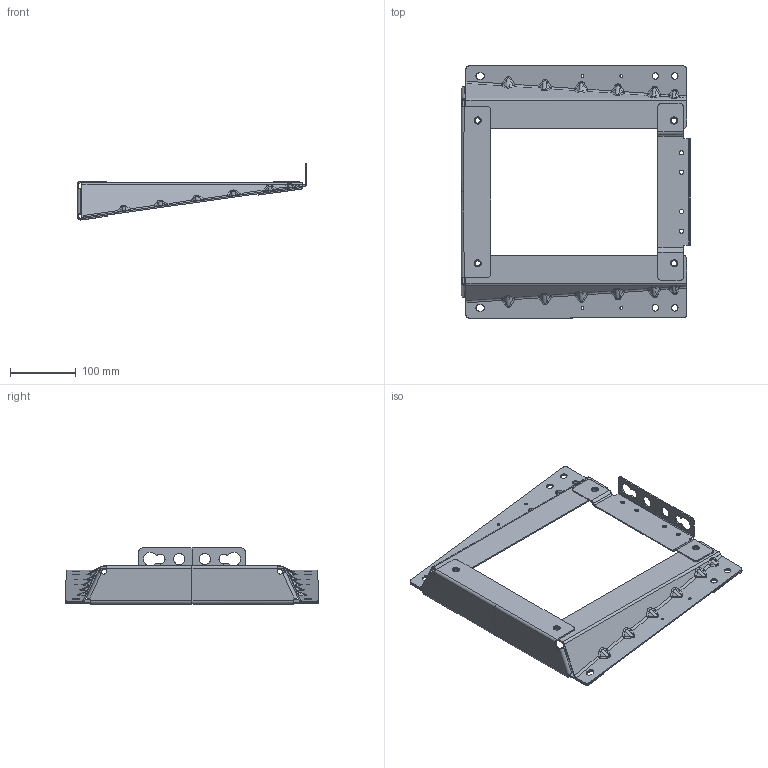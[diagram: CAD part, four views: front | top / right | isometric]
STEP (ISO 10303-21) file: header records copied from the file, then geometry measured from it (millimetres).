
FILE_DESCRIPTION(('CATIA V5 STEP Exchange'),'2;1');
FILE_NAME('C:\Users\Administrator\Desktop\J6G样件数据\主驾\驾驶员底支架焊接总成.stp','2023-04-10T08:43:19+00:00',('none'),('none'),'CATIA Version 5 Release 20 GA (IN-10)','CATIA V5 STEP AP214','none');
FILE_SCHEMA(('AUTOMOTIVE_DESIGN { 1 0 10303 214 1 1 1 1 }'));
Length unit declared in the file: millimetre
Products named in the file (8): SHT0014477; SHT0014479; SHT0014478; SHT0014566; SHT0014480; GB13680-M8; SHT0014567; SHT0014481
Assembly tree (10 placements, depth 3):
  SHT0014477
    SHT0014479
    SHT0014478
    SHT0014566
      SHT0014480
      GB13680-M8  x2
    SHT0014567
      SHT0014481
      GB13680-M8  x2
Bounding box: 350.05 x 384.94 x 85.49 mm (x, y, z)
Volume: 268117.3 mm3; surface area: 278989.5 mm2
Topology: 10 solids, 10 shells, 878 faces, 2332 edges, 1370 vertices
Faces by surface type: cylinder 429, plane 193, sphere 112, bspline 84, extrusion 36, cone 24
Entity records: 35557 total; most frequent: CARTESIAN_POINT 17675, ORIENTED_EDGE 4080, DIRECTION 2808, EDGE_CURVE 2040, AXIS2_PLACEMENT_3D 1252, VERTEX_POINT 1250, EDGE_LOOP 874, VECTOR 863
